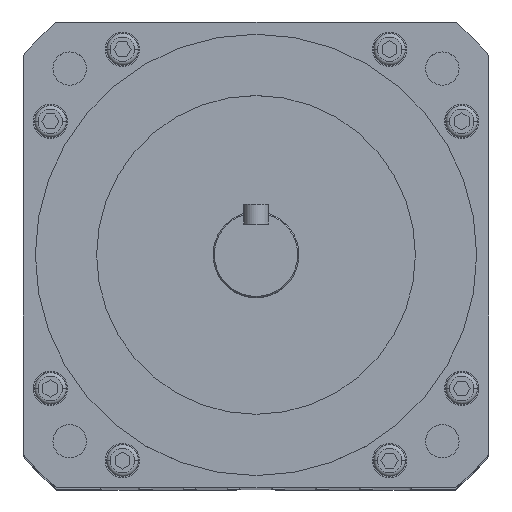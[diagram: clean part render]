
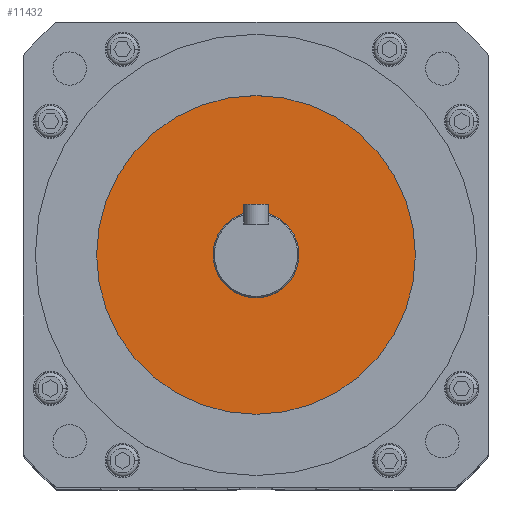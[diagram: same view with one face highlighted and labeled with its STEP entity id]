
A CAD part, top view. The second image highlights one B-rep face of the part: STEP entity #11432.
In plain terms, the highlighted planar face has unit normal (0, 0, 1).
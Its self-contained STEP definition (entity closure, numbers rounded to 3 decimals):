
#177 = EDGE_CURVE ( 'NONE', #11502, #5126, #12186, .T. ) ;
#856 = PLANE ( 'NONE',  #2715 ) ;
#1321 = ORIENTED_EDGE ( 'NONE', *, *, #13509, .T. ) ;
#2011 = AXIS2_PLACEMENT_3D ( 'NONE', #2887, #6521, #4023 ) ;
#2235 = DIRECTION ( 'NONE',  ( 1., 0., 0. ) ) ;
#2575 = AXIS2_PLACEMENT_3D ( 'NONE', #9028, #11329, #5627 ) ;
#2715 = AXIS2_PLACEMENT_3D ( 'NONE', #9133, #3374, #2235 ) ;
#2887 = CARTESIAN_POINT ( 'NONE',  ( 0., 0., 448. ) ) ;
#3374 = DIRECTION ( 'NONE',  ( 0., 0., 1. ) ) ;
#4023 = DIRECTION ( 'NONE',  ( 1., 0., 0. ) ) ;
#4201 = EDGE_CURVE ( 'NONE', #9388, #7120, #4320, .T. ) ;
#4320 = CIRCLE ( 'NONE', #8187, 65. ) ;
#4438 = EDGE_CURVE ( 'NONE', #5126, #11502, #13423, .T. ) ;
#4783 = CARTESIAN_POINT ( 'NONE',  ( 0., 0., 448. ) ) ;
#5126 = VERTEX_POINT ( 'NONE', #10677 ) ;
#5627 = DIRECTION ( 'NONE',  ( 1., 0., 0. ) ) ;
#5631 = AXIS2_PLACEMENT_3D ( 'NONE', #10739, #11730, #9438 ) ;
#6521 = DIRECTION ( 'NONE',  ( 0., 0., 1. ) ) ;
#7120 = VERTEX_POINT ( 'NONE', #13576 ) ;
#8187 = AXIS2_PLACEMENT_3D ( 'NONE', #4783, #12921, #8341 ) ;
#8341 = DIRECTION ( 'NONE',  ( 1., 0., 0. ) ) ;
#8390 = ORIENTED_EDGE ( 'NONE', *, *, #177, .F. ) ;
#8795 = ORIENTED_EDGE ( 'NONE', *, *, #4201, .T. ) ;
#9028 = CARTESIAN_POINT ( 'NONE',  ( 0., 0., 448. ) ) ;
#9133 = CARTESIAN_POINT ( 'NONE',  ( 0., 0., 448. ) ) ;
#9388 = VERTEX_POINT ( 'NONE', #14258 ) ;
#9438 = DIRECTION ( 'NONE',  ( 1., 0., 0. ) ) ;
#10677 = CARTESIAN_POINT ( 'NONE',  ( 17.5, 0., 448. ) ) ;
#10739 = CARTESIAN_POINT ( 'NONE',  ( 0., 0., 448. ) ) ;
#11274 = FACE_BOUND ( 'NONE', #14269, .T. ) ;
#11329 = DIRECTION ( 'NONE',  ( 0., 0., 1. ) ) ;
#11354 = FACE_OUTER_BOUND ( 'NONE', #12729, .T. ) ;
#11432 = ADVANCED_FACE ( 'NONE', ( #11274, #11354 ), #856, .T. ) ;
#11502 = VERTEX_POINT ( 'NONE', #13010 ) ;
#11730 = DIRECTION ( 'NONE',  ( 0., 0., 1. ) ) ;
#11757 = ORIENTED_EDGE ( 'NONE', *, *, #4438, .F. ) ;
#12186 = CIRCLE ( 'NONE', #5631, 17.5 ) ;
#12729 = EDGE_LOOP ( 'NONE', ( #8795, #1321 ) ) ;
#12921 = DIRECTION ( 'NONE',  ( 0., 0., 1. ) ) ;
#13008 = CIRCLE ( 'NONE', #2575, 65. ) ;
#13010 = CARTESIAN_POINT ( 'NONE',  ( -17.5, 0., 448. ) ) ;
#13423 = CIRCLE ( 'NONE', #2011, 17.5 ) ;
#13509 = EDGE_CURVE ( 'NONE', #7120, #9388, #13008, .T. ) ;
#13576 = CARTESIAN_POINT ( 'NONE',  ( -65., 0., 448. ) ) ;
#14258 = CARTESIAN_POINT ( 'NONE',  ( 65., 0., 448. ) ) ;
#14269 = EDGE_LOOP ( 'NONE', ( #8390, #11757 ) ) ;
